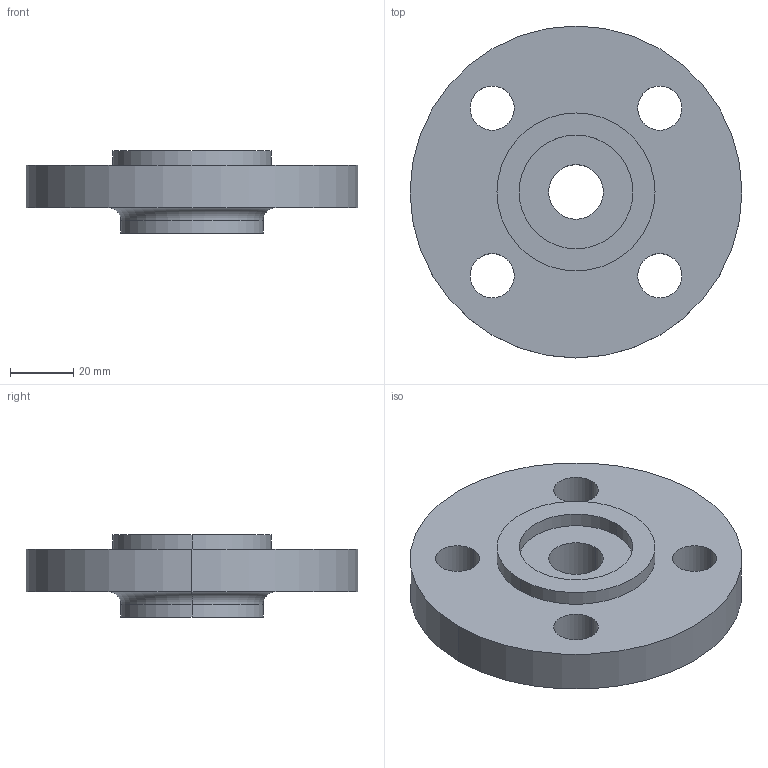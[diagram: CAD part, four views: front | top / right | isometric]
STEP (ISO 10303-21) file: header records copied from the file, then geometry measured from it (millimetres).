
FILE_DESCRIPTION (( 'STEP AP214' ), '1' );
FILE_NAME ('PN40 DN20 Type 13 - Type C Face.STEP', '2018-12-30T04:10:20', ( '' ), ( '' ), 'SwSTEP 2.0', 'SolidWorks 2019', '' );
FILE_SCHEMA (( 'AUTOMOTIVE_DESIGN' ));
Length unit declared in the file: millimetre
Products named in the file (1): PN40 DN20 Type 13 - Type C Face
Bounding box: 105 x 105 x 26 mm (x, y, z)
Volume: 121017.2 mm3; surface area: 25724.3 mm2
Topology: 1 solids, 1 shells, 25 faces, 58 edges, 38 vertices
Faces by surface type: cylinder 18, plane 5, torus 2
Entity records: 790 total; most frequent: DIRECTION 150, CARTESIAN_POINT 122, ORIENTED_EDGE 116, AXIS2_PLACEMENT_3D 66, EDGE_CURVE 58, CIRCLE 40, EDGE_LOOP 38, VERTEX_POINT 38
